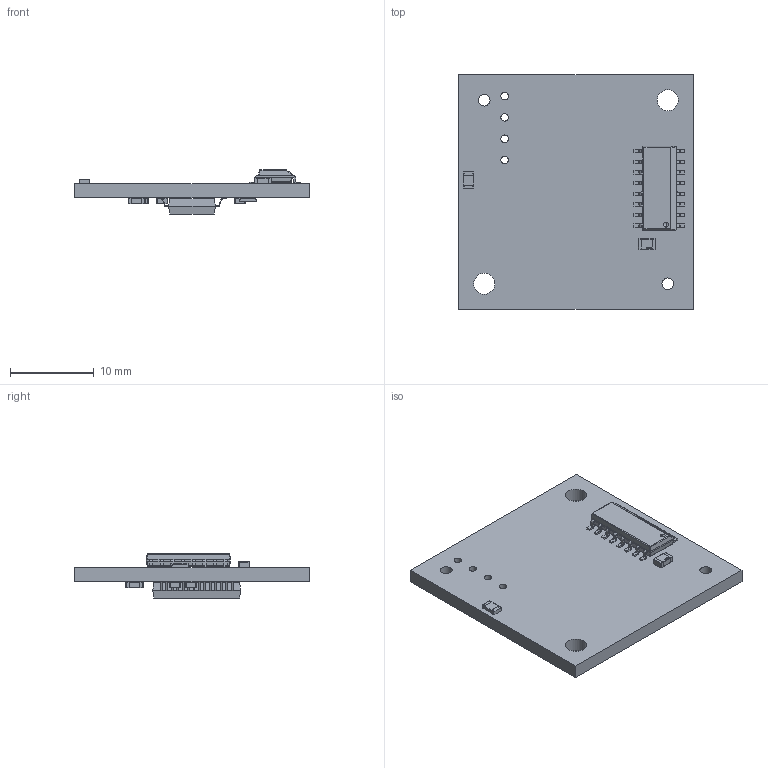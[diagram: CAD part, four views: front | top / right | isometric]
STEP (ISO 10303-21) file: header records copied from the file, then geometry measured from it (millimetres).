
FILE_DESCRIPTION(('Open CASCADE Model'),'2;1');
FILE_NAME('Open CASCADE Shape Model','2021-07-27T14:28:25',('Author'),( 'Open CASCADE'),'Open CASCADE STEP processor 6.8','Open CASCADE 6.8' ,'Unknown');
FILE_SCHEMA(('AUTOMOTIVE_DESIGN { 1 0 10303 214 1 1 1 1 }'));
Length unit declared in the file: millimetre
Products named in the file (18): PCB; Board; C1; C0805; C4; C5; C6; C7; IC2; SW3dPS-SSOP-28; L1; SW3dPS-R0805; R2; C8; R1; C9; IC1; SW3dPS-SOIC127P600X175-16
Assembly tree (25 placements, depth 3):
  PCB
    Board
    C1
      C0805
    C4
      C0805
    C5
      C0805
    C6
      C0805
    C7
      C0805
    IC2
      SW3dPS-SSOP-28
    L1
      SW3dPS-R0805
    R2
      SW3dPS-R0805
    C8
      C0805
    R1
      SW3dPS-R0805
    C9
      C0805
    IC1
      SW3dPS-SOIC127P600X175-16
Bounding box: 28 x 28 x 5.27 mm (x, y, z)
Volume: 1479.4 mm3; surface area: 2370.1 mm2
Topology: 64 solids, 64 shells, 1725 faces, 4409 edges, 2817 vertices
Faces by surface type: plane 886, bspline 420, cylinder 407, sphere 12
Full cylindrical faces by diameter (mm): 0.9 x4, 1.4 x2, 2.5 x2
Entity records: 37580 total; most frequent: CARTESIAN_POINT 9871, ORIENTED_EDGE 4886, DIRECTION 4665, EDGE_CURVE 2443, LINE 1755, VECTOR 1755, VERTEX_POINT 1597, AXIS2_PLACEMENT_3D 1455
